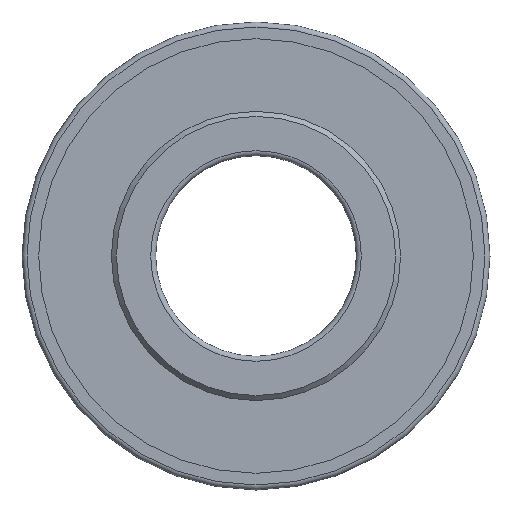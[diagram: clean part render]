
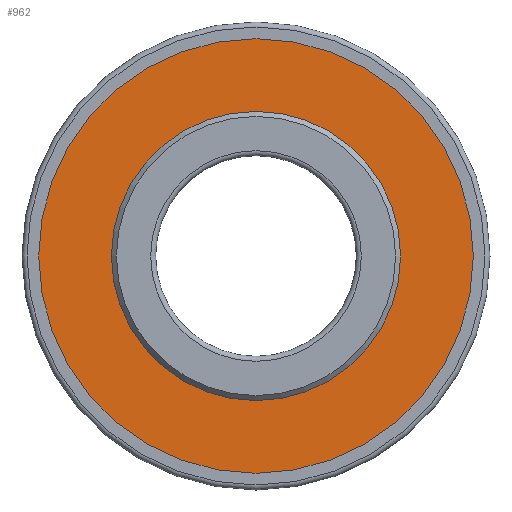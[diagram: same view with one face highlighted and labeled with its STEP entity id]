
A CAD part, left-side view. The second image highlights one B-rep face of the part: STEP entity #962.
In plain terms, the highlighted planar face has unit normal (-1, 0, 0).
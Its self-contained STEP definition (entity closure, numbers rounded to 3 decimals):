
#170=PLANE($,#1127);
#201=FACE_BOUND($,#344,.T.);
#202=FACE_BOUND($,#345,.T.);
#344=EDGE_LOOP($,(#896));
#345=EDGE_LOOP($,(#897));
#437=CIRCLE($,#1125,8.65);
#439=CIRCLE($,#1128,13.);
#529=VERTEX_POINT($,#2433);
#531=VERTEX_POINT($,#2438);
#652=EDGE_CURVE($,#529,#529,#437,.T.);
#654=EDGE_CURVE($,#531,#531,#439,.T.);
#896=ORIENTED_EDGE($,*,*,#652,.T.);
#897=ORIENTED_EDGE($,*,*,#654,.F.);
#962=ADVANCED_FACE($,(#201,#202),#170,.T.);
#1125=AXIS2_PLACEMENT_3D($,#2434,#1447,#1448);
#1127=AXIS2_PLACEMENT_3D($,#2437,#1451,#1452);
#1128=AXIS2_PLACEMENT_3D($,#2439,#1453,#1454);
#1447=DIRECTION('center_axis',(1.,0.,0.));
#1448=DIRECTION('ref_axis',(0.,0.,-1.));
#1451=DIRECTION('center_axis',(-1.,0.,0.));
#1452=DIRECTION('ref_axis',(0.,0.,1.));
#1453=DIRECTION('center_axis',(1.,0.,0.));
#1454=DIRECTION('ref_axis',(0.,0.,-1.));
#2433=CARTESIAN_POINT('',(0.,8.65,0.));
#2434=CARTESIAN_POINT('Origin',(0.,0.,0.));
#2437=CARTESIAN_POINT('Origin',(0.,13.,0.));
#2438=CARTESIAN_POINT('',(0.,13.,0.));
#2439=CARTESIAN_POINT('Origin',(0.,0.,0.));
